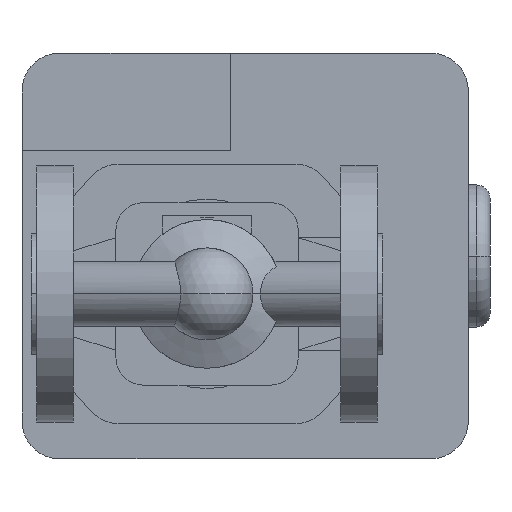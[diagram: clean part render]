
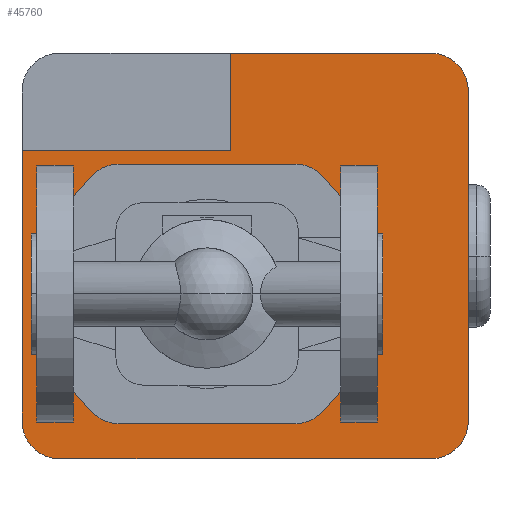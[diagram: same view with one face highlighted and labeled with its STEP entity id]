
A CAD part, front view. The second image highlights one B-rep face of the part: STEP entity #45760.
In plain terms, the highlighted planar face has unit normal (0, -1, 0).
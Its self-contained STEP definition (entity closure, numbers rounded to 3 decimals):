
#34210=CARTESIAN_POINT('',(124.96,305.,11.216));
#34220=VERTEX_POINT('',#34210);
#34250=CARTESIAN_POINT('',(115.,305.,0.));
#34260=DIRECTION('',(0.,1.,0.));
#34270=DIRECTION('',(0.,0.,1.));
#34280=AXIS2_PLACEMENT_3D('',#34250,#34260,#34270);
#34290=CIRCLE('',#34280,15.);
#34300=CARTESIAN_POINT('',(124.96,305.,-11.216));
#34310=VERTEX_POINT('',#34300);
#34320=EDGE_CURVE('',#34220,#34310,#34290,.T.);
#37040=CARTESIAN_POINT('',(107.116,305.,44.128));
#37050=VERTEX_POINT('',#37040);
#37080=CARTESIAN_POINT('',(65.,305.,0.));
#37090=DIRECTION('',(0.,1.,0.));
#37100=DIRECTION('',(0.69,0.,0.723));
#37110=AXIS2_PLACEMENT_3D('',#37080,#37090,#37100);
#37120=CIRCLE('',#37110,61.);
#37130=EDGE_CURVE('',#37050,#34220,#37120,.T.);
#37520=CARTESIAN_POINT('',(5.04,305.,-11.216));
#37530=VERTEX_POINT('',#37520);
#37560=CARTESIAN_POINT('',(15.,305.,0.));
#37570=DIRECTION('',(0.,1.,0.));
#37580=DIRECTION('',(0.,0.,-1.));
#37590=AXIS2_PLACEMENT_3D('',#37560,#37570,#37580);
#37600=CIRCLE('',#37590,15.);
#37610=CARTESIAN_POINT('',(5.04,305.,11.216));
#37620=VERTEX_POINT('',#37610);
#37630=EDGE_CURVE('',#37530,#37620,#37600,.T.);
#38620=CARTESIAN_POINT('',(22.884,305.,-44.128));
#38630=VERTEX_POINT('',#38620);
#38660=CARTESIAN_POINT('',(65.,305.,0.));
#38670=DIRECTION('',(0.,1.,0.));
#38680=DIRECTION('',(-0.69,0.,-0.723));
#38690=AXIS2_PLACEMENT_3D('',#38660,#38670,#38680);
#38700=CIRCLE('',#38690,61.);
#38710=EDGE_CURVE('',#38630,#37530,#38700,.T.);
#44220=CARTESIAN_POINT('',(65.,305.,0.));
#44230=DIRECTION('',(0.,1.,0.));
#44240=DIRECTION('',(0.,0.,1.));
#44250=AXIS2_PLACEMENT_3D('',#44220,#44230,#44240);
#44260=PLANE('',#44250);
#44270=ORIENTED_EDGE('',*,*,#37130,.T.);
#44280=CARTESIAN_POINT('',(97.45,305.,34.));
#44290=DIRECTION('',(0.,1.,0.));
#44300=DIRECTION('',(0.,0.,1.));
#44310=AXIS2_PLACEMENT_3D('',#44280,#44290,#44300);
#44320=CIRCLE('',#44310,14.);
#44330=CARTESIAN_POINT('',(97.45,305.,48.));
#44340=VERTEX_POINT('',#44330);
#44350=EDGE_CURVE('',#44340,#37050,#44320,.T.);
#44360=ORIENTED_EDGE('',*,*,#44350,.T.);
#44370=CARTESIAN_POINT('',(48.775,305.,48.));
#44380=DIRECTION('',(1.,0.,0.));
#44390=VECTOR('',#44380,1.);
#44400=LINE('',#44370,#44390);
#44410=CARTESIAN_POINT('',(32.55,305.,48.));
#44420=VERTEX_POINT('',#44410);
#44430=EDGE_CURVE('',#44420,#44340,#44400,.T.);
#44440=ORIENTED_EDGE('',*,*,#44430,.T.);
#44450=CARTESIAN_POINT('',(32.55,305.,34.));
#44460=DIRECTION('',(0.,1.,0.));
#44470=DIRECTION('',(-0.69,0.,0.723));
#44480=AXIS2_PLACEMENT_3D('',#44450,#44460,#44470);
#44490=CIRCLE('',#44480,14.);
#44500=CARTESIAN_POINT('',(22.884,305.,44.128));
#44510=VERTEX_POINT('',#44500);
#44520=EDGE_CURVE('',#44510,#44420,#44490,.T.);
#44530=ORIENTED_EDGE('',*,*,#44520,.T.);
#44540=CARTESIAN_POINT('',(65.,305.,0.));
#44550=DIRECTION('',(0.,1.,0.));
#44560=DIRECTION('',(-0.69,0.,-0.723));
#44570=AXIS2_PLACEMENT_3D('',#44540,#44550,#44560);
#44580=CIRCLE('',#44570,61.);
#44590=EDGE_CURVE('',#37620,#44510,#44580,.T.);
#44600=ORIENTED_EDGE('',*,*,#44590,.T.);
#44610=ORIENTED_EDGE('',*,*,#37630,.T.);
#44620=ORIENTED_EDGE('',*,*,#38710,.T.);
#44630=CARTESIAN_POINT('',(32.55,305.,-34.));
#44640=DIRECTION('',(0.,1.,0.));
#44650=DIRECTION('',(0.,0.,-1.));
#44660=AXIS2_PLACEMENT_3D('',#44630,#44640,#44650);
#44670=CIRCLE('',#44660,14.);
#44680=CARTESIAN_POINT('',(32.55,305.,-48.));
#44690=VERTEX_POINT('',#44680);
#44700=EDGE_CURVE('',#44690,#38630,#44670,.T.);
#44710=ORIENTED_EDGE('',*,*,#44700,.T.);
#44720=CARTESIAN_POINT('',(81.225,305.,-48.));
#44730=DIRECTION('',(-1.,0.,0.));
#44740=VECTOR('',#44730,1.);
#44750=LINE('',#44720,#44740);
#44760=CARTESIAN_POINT('',(97.45,305.,-48.));
#44770=VERTEX_POINT('',#44760);
#44780=EDGE_CURVE('',#44770,#44690,#44750,.T.);
#44790=ORIENTED_EDGE('',*,*,#44780,.T.);
#44800=CARTESIAN_POINT('',(97.45,305.,-34.));
#44810=DIRECTION('',(0.,1.,0.));
#44820=DIRECTION('',(0.69,0.,-0.723));
#44830=AXIS2_PLACEMENT_3D('',#44800,#44810,#44820);
#44840=CIRCLE('',#44830,14.);
#44850=CARTESIAN_POINT('',(107.116,305.,-44.128));
#44860=VERTEX_POINT('',#44850);
#44870=EDGE_CURVE('',#44860,#44770,#44840,.T.);
#44880=ORIENTED_EDGE('',*,*,#44870,.T.);
#44890=CARTESIAN_POINT('',(65.,305.,0.));
#44900=DIRECTION('',(0.,1.,0.));
#44910=DIRECTION('',(0.69,0.,0.723));
#44920=AXIS2_PLACEMENT_3D('',#44890,#44900,#44910);
#44930=CIRCLE('',#44920,61.);
#44940=EDGE_CURVE('',#34310,#44860,#44930,.T.);
#44950=ORIENTED_EDGE('',*,*,#44940,.T.);
#44960=ORIENTED_EDGE('',*,*,#34320,.T.);
#44970=EDGE_LOOP('',(#44960,#44950,#44880,#44790,#44710,#44620,#44610,
#44600,#44530,#44440,#44360,#44270));
#44980=FACE_BOUND('',#44970,.T.);
#44990=CARTESIAN_POINT('',(73.6,305.,26.5));
#45000=DIRECTION('',(0.,0.,-1.));
#45010=VECTOR('',#45000,1.);
#45020=LINE('',#44990,#45010);
#45030=CARTESIAN_POINT('',(73.6,305.,89.));
#45040=VERTEX_POINT('',#45030);
#45050=CARTESIAN_POINT('',(73.6,305.,53.));
#45060=VERTEX_POINT('',#45050);
#45070=EDGE_CURVE('',#45040,#45060,#45020,.T.);
#45080=ORIENTED_EDGE('',*,*,#45070,.T.);
#45090=CARTESIAN_POINT('',(10.6,305.,89.));
#45100=DIRECTION('',(1.,0.,0.));
#45110=VECTOR('',#45100,1.);
#45120=LINE('',#45090,#45110);
#45130=CARTESIAN_POINT('',(147.6,305.,89.));
#45140=VERTEX_POINT('',#45130);
#45150=EDGE_CURVE('',#45040,#45140,#45120,.T.);
#45160=ORIENTED_EDGE('',*,*,#45150,.F.);
#45170=CARTESIAN_POINT('',(147.6,305.,75.));
#45180=DIRECTION('',(0.,1.,0.));
#45190=DIRECTION('',(0.,0.,1.));
#45200=AXIS2_PLACEMENT_3D('',#45170,#45180,#45190);
#45210=CIRCLE('',#45200,14.);
#45220=CARTESIAN_POINT('',(161.6,305.,75.));
#45230=VERTEX_POINT('',#45220);
#45240=EDGE_CURVE('',#45140,#45230,#45210,.T.);
#45250=ORIENTED_EDGE('',*,*,#45240,.F.);
#45260=CARTESIAN_POINT('',(161.6,305.,75.));
#45270=DIRECTION('',(0.,0.,-1.));
#45280=VECTOR('',#45270,1.);
#45290=LINE('',#45260,#45280);
#45300=CARTESIAN_POINT('',(161.6,305.,-47.));
#45310=VERTEX_POINT('',#45300);
#45320=EDGE_CURVE('',#45230,#45310,#45290,.T.);
#45330=ORIENTED_EDGE('',*,*,#45320,.F.);
#45340=CARTESIAN_POINT('',(147.6,305.,-47.));
#45350=DIRECTION('',(0.,1.,0.));
#45360=DIRECTION('',(1.,0.,0.));
#45370=AXIS2_PLACEMENT_3D('',#45340,#45350,#45360);
#45380=CIRCLE('',#45370,14.);
#45390=CARTESIAN_POINT('',(147.6,305.,-61.));
#45400=VERTEX_POINT('',#45390);
#45410=EDGE_CURVE('',#45310,#45400,#45380,.T.);
#45420=ORIENTED_EDGE('',*,*,#45410,.F.);
#45430=CARTESIAN_POINT('',(147.6,305.,-61.));
#45440=DIRECTION('',(-1.,0.,0.));
#45450=VECTOR('',#45440,1.);
#45460=LINE('',#45430,#45450);
#45470=CARTESIAN_POINT('',(10.6,305.,-61.));
#45480=VERTEX_POINT('',#45470);
#45490=EDGE_CURVE('',#45400,#45480,#45460,.T.);
#45500=ORIENTED_EDGE('',*,*,#45490,.F.);
#45510=CARTESIAN_POINT('',(10.6,305.,-47.));
#45520=DIRECTION('',(0.,1.,0.));
#45530=DIRECTION('',(0.,0.,-1.));
#45540=AXIS2_PLACEMENT_3D('',#45510,#45520,#45530);
#45550=CIRCLE('',#45540,14.);
#45560=CARTESIAN_POINT('',(-3.4,305.,-47.));
#45570=VERTEX_POINT('',#45560);
#45580=EDGE_CURVE('',#45480,#45570,#45550,.T.);
#45590=ORIENTED_EDGE('',*,*,#45580,.F.);
#45600=CARTESIAN_POINT('',(-3.4,305.,-47.));
#45610=DIRECTION('',(0.,0.,1.));
#45620=VECTOR('',#45610,1.);
#45630=LINE('',#45600,#45620);
#45640=CARTESIAN_POINT('',(-3.4,305.,53.));
#45650=VERTEX_POINT('',#45640);
#45660=EDGE_CURVE('',#45570,#45650,#45630,.T.);
#45670=ORIENTED_EDGE('',*,*,#45660,.F.);
#45680=CARTESIAN_POINT('',(30.3,305.,53.));
#45690=DIRECTION('',(-1.,0.,0.));
#45700=VECTOR('',#45690,1.);
#45710=LINE('',#45680,#45700);
#45720=EDGE_CURVE('',#45060,#45650,#45710,.T.);
#45730=ORIENTED_EDGE('',*,*,#45720,.T.);
#45740=EDGE_LOOP('',(#45730,#45670,#45590,#45500,#45420,#45330,#45250,
#45160,#45080));
#45750=FACE_OUTER_BOUND('',#45740,.T.);
#45760=ADVANCED_FACE('',(#44980,#45750),#44260,.F.);
